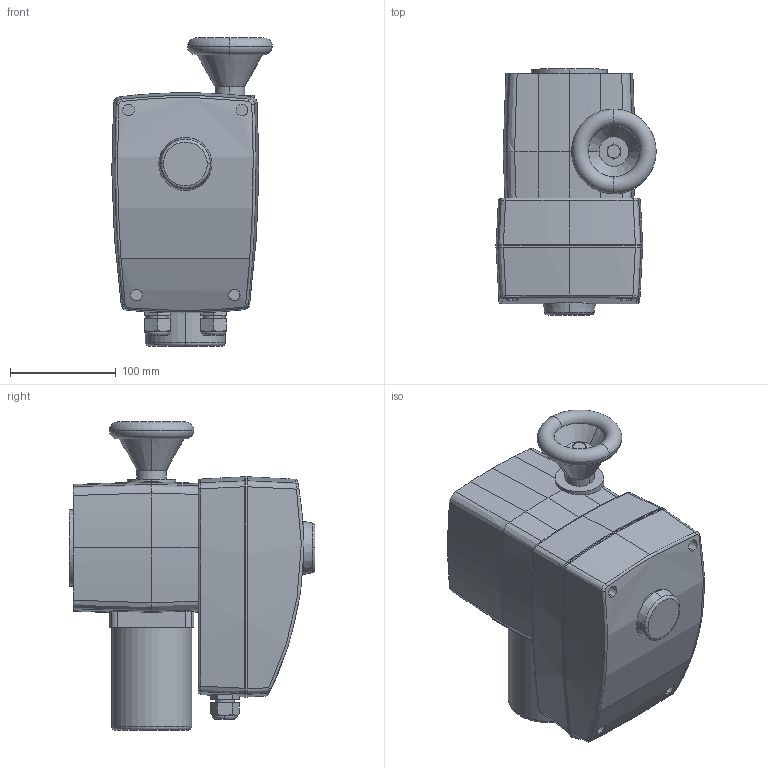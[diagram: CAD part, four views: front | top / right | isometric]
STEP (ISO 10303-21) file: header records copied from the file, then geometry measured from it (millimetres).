
FILE_DESCRIPTION((''),'2;1');
FILE_NAME('SQL36E65.dwg.stp','2006-10-04T11:32:35',(''),(''),'Mechanical Desktop 2006','Mechanical Desktop 2006',', , ');
FILE_SCHEMA(('AUTOMOTIVE_DESIGN { 1 2 10303 214 0 1 1 1 }'));
Length unit declared in the file: millimetre
Products named in the file (1): Product
Bounding box: 151.48 x 232.28 x 291 mm (x, y, z)
Volume: 4850624.2 mm3; surface area: 324642 mm2
Topology: 11 solids, 11 shells, 239 faces, 585 edges, 378 vertices
Faces by surface type: bspline 114, plane 43, cylinder 34, cone 30, torus 17, sphere 1
Entity records: 12169 total; most frequent: CARTESIAN_POINT 6985, ORIENTED_EDGE 1170, DIRECTION 900, EDGE_CURVE 585, VERTEX_POINT 378, AXIS2_PLACEMENT_3D 347, EDGE_LOOP 249, FACE_OUTER_BOUND 239
